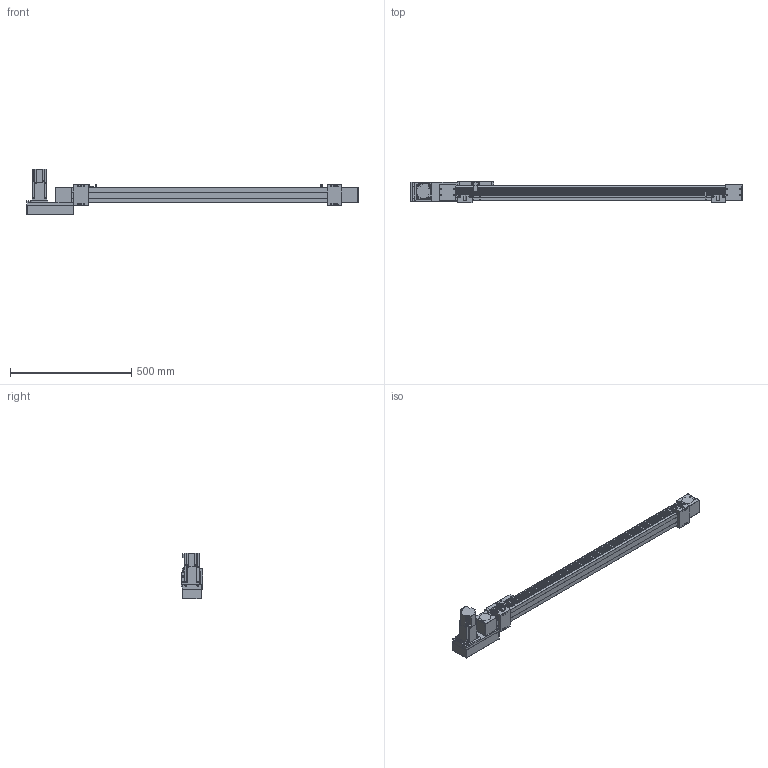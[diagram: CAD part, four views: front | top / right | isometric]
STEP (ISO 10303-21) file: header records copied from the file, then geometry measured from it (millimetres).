
FILE_DESCRIPTION(/* description */ ('STEP AP214'),/* implementation_level */ '2;1');
FILE_NAME(/* name */ 'SK60-P13-S950-L-T40-C1-N(0)',/* time_stamp */ '2023-04-06T04:04:32+02:00',/* author */ ('License CC BY-ND 4.0'),/* organization */ ('CADENAS'),/* preprocessor_version */ 'ST-DEVELOPER v19.3',/* originating_system */ 'PARTsolutions',/* authorisation */ ' ');
FILE_SCHEMA (('AUTOMOTIVE_DESIGN {1 0 10303 214 3 1 1}'));
Length unit declared in the file: millimetre
Products named in the file (10): SK60-P13-S950-L-T40-C1-N(0); PSC140-sensor; SK60-S450_seat; SK60-S450-BL-C1_slider; SK60_body3; SK60_body6; SK60-BL_body2; T40-p1; SK60-L_fb; SK60-S950-L-C1_body
Assembly tree (16 placements, depth 2):
  SK60-P13-S950-L-T40-C1-N(0)
    PSC140-sensor  x3
    SK60-S450_seat  x2
    SK60-S450-BL-C1_slider
    SK60_body3  x3
    SK60_body6  x2
    SK60-BL_body2  x2
    T40-p1
    SK60-L_fb
    SK60-S950-L-C1_body
Bounding box: 1370.5 x 90 x 189.7 mm (x, y, z)
Volume: 5430269.5 mm3; surface area: 679036.5 mm2
Topology: 16 solids, 16 shells, 810 faces, 2048 edges, 1349 vertices
Faces by surface type: plane 524, cylinder 262, cone 22, torus 2
Full cylindrical faces by diameter (mm): 2.8 x3, 3.3 x4, 4 x2, 4.5 x30, 4.6 x3, 4.917 x16, 5 x6, 5.478 x4, 5.5 x19, 6.5 x4, 7 x2, 8 x4, 8.5 x4, 9.988 x4, 10 x8, 14 x1, 47 x3, 50 x2
Entity records: 18655 total; most frequent: DIRECTION 3184, CARTESIAN_POINT 3150, ORIENTED_EDGE 2940, EDGE_CURVE 1470, AXIS2_PLACEMENT_3D 1068, LINE 1048, VECTOR 1048, VERTEX_POINT 1034
